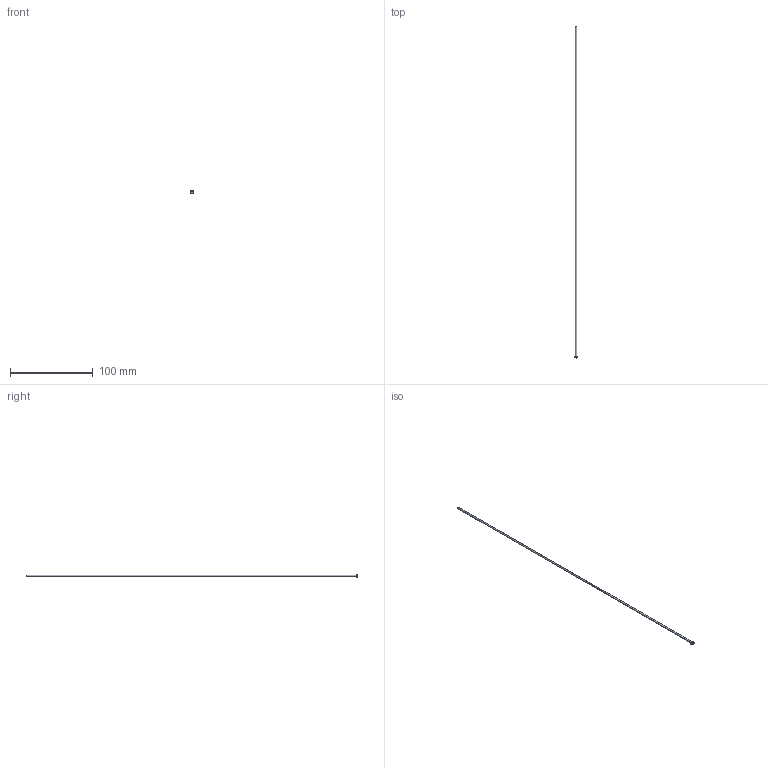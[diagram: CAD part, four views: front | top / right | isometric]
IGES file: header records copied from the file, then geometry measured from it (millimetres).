
Start section: SolidWorks IGES file using analytic representation for surfaces
Global section: file name: C:\Users\User\Downloads\Matripeça 31-08 tar\PB - PINO EXTRATOR TIPO _B_ (CATÁLOGO)\PB02,0\PB02,0400.IGS; native system: SolidWorks 2024; preprocessor: SolidWorks 2024; author: User; date: 260901.140704; units: millimetre
Bounding box: 4 x 400 x 4 mm (x, y, z)
Surface area: 2553.7 mm2 (no closed solid volume)
Topology: 0 solids, 0 shells, 402 faces, 2892 edges, 2892 vertices
Faces by surface type: bspline 388, revolution 14
